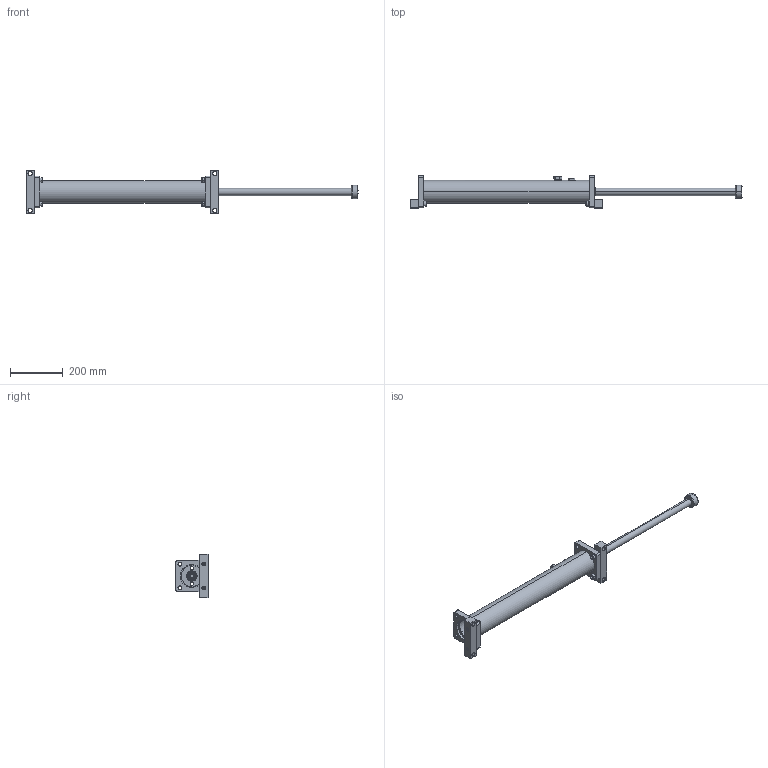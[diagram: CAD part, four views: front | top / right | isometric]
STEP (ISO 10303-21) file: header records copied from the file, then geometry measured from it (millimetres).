
FILE_DESCRIPTION (( 'STEP AP214' ), '1' );
FILE_NAME ('LDD1.5X20.STEP', '2019-01-16T05:45:09', ( 'user' ), ( 'Microsoft' ), 'SwSTEP 2.0', 'SolidWorks 2016', '' );
FILE_SCHEMA (( 'AUTOMOTIVE_DESIGN' ));
Length unit declared in the file: inch
Products named in the file (1): LDD1.5X20
Bounding box: 1255 x 121 x 165 mm (x, y, z)
Surface area: 368646.5 mm2 (no closed solid volume)
Topology: 0 solids, 23 shells, 264 faces, 701 edges, 468 vertices
Faces by surface type: plane 97, cylinder 81, cone 62, bspline 24
Entity records: 13891 total; most frequent: CARTESIAN_POINT 7369, DIRECTION 1362, ORIENTED_EDGE 1268, EDGE_CURVE 701, AXIS2_PLACEMENT_3D 527, VERTEX_POINT 468, EDGE_LOOP 321, LINE 308
